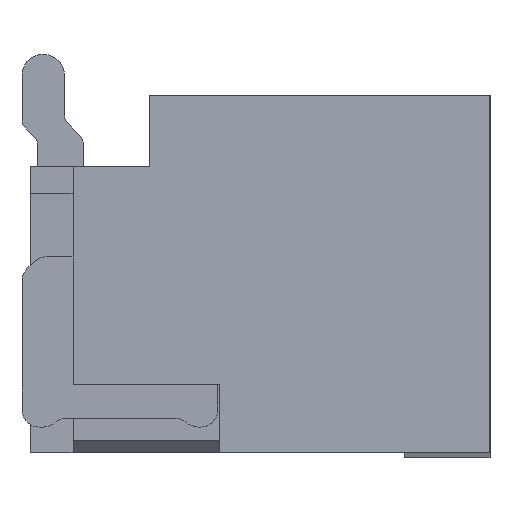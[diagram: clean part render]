
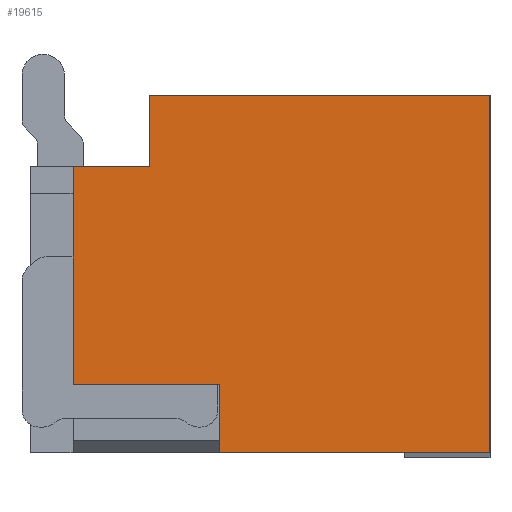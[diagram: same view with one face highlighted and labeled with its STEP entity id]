
A CAD part, left-side view. The second image highlights one B-rep face of the part: STEP entity #19615.
In plain terms, the highlighted planar face has unit normal (-1, 0, 0).
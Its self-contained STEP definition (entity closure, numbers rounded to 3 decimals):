
#455=DIRECTION('',(0.,0.,-1.));
#456=VECTOR('',#455,2.1);
#457=CARTESIAN_POINT('',(45.951,46.255,-2.015));
#458=LINE('',#457,#456);
#487=DIRECTION('',(0.,1.,0.));
#488=VECTOR('',#487,0.45);
#489=CARTESIAN_POINT('',(45.951,48.255,-2.435));
#490=LINE('',#489,#488);
#491=DIRECTION('',(0.,1.,0.));
#492=VECTOR('',#491,2.);
#493=CARTESIAN_POINT('',(45.951,46.255,-2.015));
#494=LINE('',#493,#492);
#495=DIRECTION('',(0.,0.,-1.));
#496=VECTOR('',#495,0.4);
#497=CARTESIAN_POINT('',(45.951,47.845,-3.715));
#498=LINE('',#497,#496);
#787=DIRECTION('',(0.,0.,1.));
#788=VECTOR('',#787,0.42);
#789=CARTESIAN_POINT('',(45.951,48.255,-2.435));
#790=LINE('',#789,#788);
#927=DIRECTION('',(0.,1.,0.));
#928=VECTOR('',#927,1.59);
#929=CARTESIAN_POINT('',(45.951,46.255,-4.115));
#930=LINE('',#929,#928);
#963=DIRECTION('',(0.,0.,1.));
#964=VECTOR('',#963,1.28);
#965=CARTESIAN_POINT('',(45.951,48.705,-3.715));
#966=LINE('',#965,#964);
#12591=DIRECTION('',(0.,1.,0.));
#12592=VECTOR('',#12591,0.86);
#12593=CARTESIAN_POINT('',(45.951,47.845,
-3.715));
#12594=LINE('',#12593,#12592);
#14571=CARTESIAN_POINT('',(45.951,48.705,
-2.435));
#14572=VERTEX_POINT('',#14571);
#14573=CARTESIAN_POINT('',(45.951,48.705,
-3.715));
#14574=VERTEX_POINT('',#14573);
#14691=CARTESIAN_POINT('',(45.951,46.255,
-2.015));
#14692=CARTESIAN_POINT('',(45.951,48.255,
-2.015));
#14693=VERTEX_POINT('',#14691);
#14694=VERTEX_POINT('',#14692);
#15261=CARTESIAN_POINT('',(45.951,47.845,
-3.715));
#15262=VERTEX_POINT('',#15261);
#15325=CARTESIAN_POINT('',(45.951,47.845,
-4.115));
#15326=VERTEX_POINT('',#15325);
#15337=CARTESIAN_POINT('',(45.951,48.255,
-2.435));
#15338=VERTEX_POINT('',#15337);
#15551=CARTESIAN_POINT('',(45.951,46.255,
-4.115));
#15552=VERTEX_POINT('',#15551);
#19594=CARTESIAN_POINT('',(45.951,75.644,
-2.446));
#19595=DIRECTION('',(-1.,0.,0.));
#19596=DIRECTION('',(0.,0.,1.));
#19597=AXIS2_PLACEMENT_3D('',#19594,#19595,#19596);
#19598=PLANE('',#19597);
#19600=ORIENTED_EDGE('',*,*,#19599,.F.);
#19602=ORIENTED_EDGE('',*,*,#19601,.T.);
#19603=ORIENTED_EDGE('',*,*,#19585,.F.);
#19604=ORIENTED_EDGE('',*,*,#19549,.T.);
#19606=ORIENTED_EDGE('',*,*,#19605,.T.);
#19608=ORIENTED_EDGE('',*,*,#19607,.F.);
#19610=ORIENTED_EDGE('',*,*,#19609,.T.);
#19612=ORIENTED_EDGE('',*,*,#19611,.T.);
#19613=EDGE_LOOP('',(#19600,#19602,#19603,#19604,#19606,#19608,#19610,#19612));
#19614=FACE_OUTER_BOUND('',#19613,.F.);
#19615=ADVANCED_FACE('',(#19614),#19598,.T.);
#19549=EDGE_CURVE('',#14693,#15552,#458,.T.);
#19585=EDGE_CURVE('',#14693,#14694,#494,.T.);
#19599=EDGE_CURVE('',#15338,#14572,#490,.T.);
#19601=EDGE_CURVE('',#15338,#14694,#790,.T.);
#19605=EDGE_CURVE('',#15552,#15326,#930,.T.);
#19607=EDGE_CURVE('',#15262,#15326,#498,.T.);
#19609=EDGE_CURVE('',#15262,#14574,#12594,.T.);
#19611=EDGE_CURVE('',#14574,#14572,#966,.T.);
